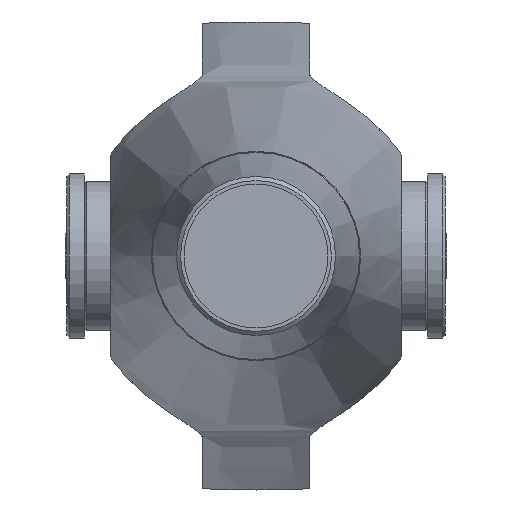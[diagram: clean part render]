
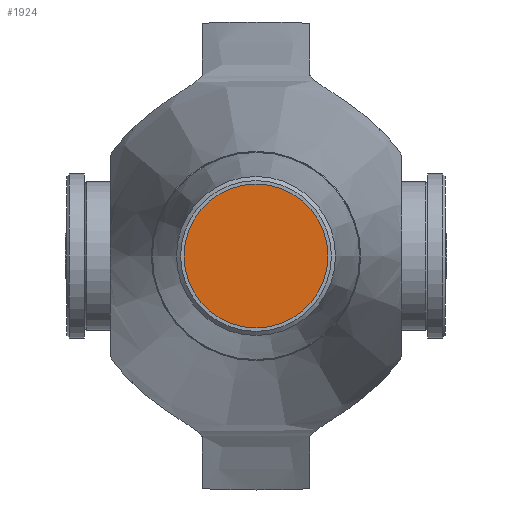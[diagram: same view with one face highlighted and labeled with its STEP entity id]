
A CAD part, left-side view. The second image highlights one B-rep face of the part: STEP entity #1924.
In plain terms, the highlighted planar face has unit normal (-1, 0, 0).
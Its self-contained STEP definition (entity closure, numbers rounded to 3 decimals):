
#121=PLANE('',#2086);
#180=FACE_OUTER_BOUND('',#292,.T.);
#292=EDGE_LOOP('',(#1272,#1273));
#644=CIRCLE('',#2084,57.);
#645=CIRCLE('',#2085,57.);
#766=VERTEX_POINT('',#2920);
#767=VERTEX_POINT('',#2922);
#968=EDGE_CURVE('',#767,#766,#644,.T.);
#969=EDGE_CURVE('',#766,#767,#645,.T.);
#1272=ORIENTED_EDGE('',*,*,#968,.T.);
#1273=ORIENTED_EDGE('',*,*,#969,.T.);
#1924=ADVANCED_FACE('',(#180),#121,.T.);
#2084=AXIS2_PLACEMENT_3D('',#2923,#2360,#2361);
#2085=AXIS2_PLACEMENT_3D('',#2924,#2362,#2363);
#2086=AXIS2_PLACEMENT_3D('',#2925,#2364,#2365);
#2360=DIRECTION('center_axis',(-1.,0.,0.));
#2361=DIRECTION('ref_axis',(0.,0.,-1.));
#2362=DIRECTION('center_axis',(-1.,0.,0.));
#2363=DIRECTION('ref_axis',(0.,0.,-1.));
#2364=DIRECTION('center_axis',(-1.,0.,0.));
#2365=DIRECTION('ref_axis',(0.,0.,-1.));
#2920=CARTESIAN_POINT('',(-1119.,-57.,0.));
#2922=CARTESIAN_POINT('',(-1119.,57.,0.));
#2923=CARTESIAN_POINT('Origin',(-1119.,0.,0.));
#2924=CARTESIAN_POINT('Origin',(-1119.,0.,0.));
#2925=CARTESIAN_POINT('Origin',(-1119.,0.,0.));
